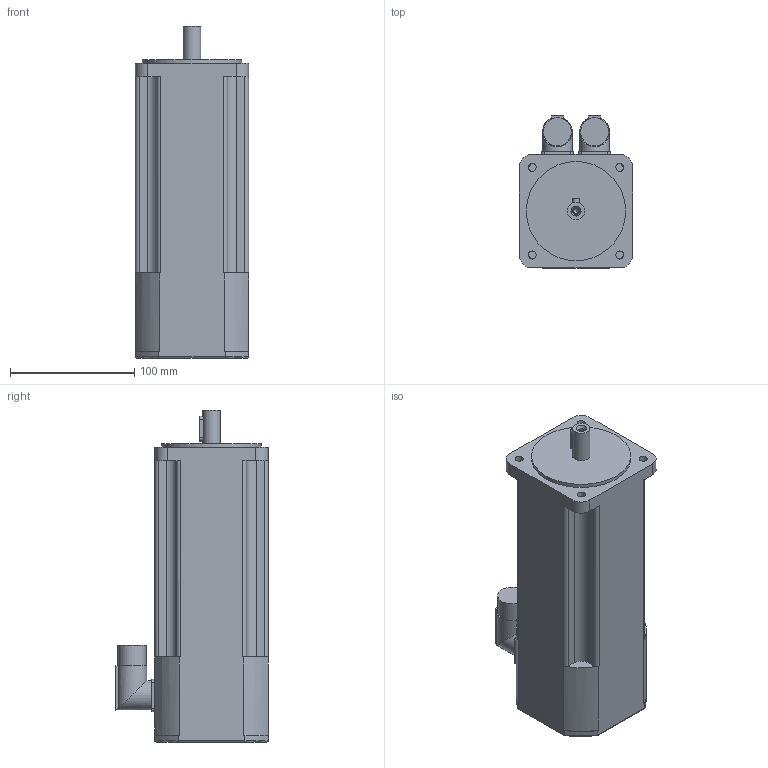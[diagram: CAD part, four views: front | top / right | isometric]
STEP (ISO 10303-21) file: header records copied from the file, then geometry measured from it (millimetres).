
FILE_DESCRIPTION(/* description */ (''),/* implementation_level */ '2;1');
FILE_NAME(/* name */ '\\Lafnas01\disegni\Archivi Lafert\3D\CAD 3D\MODELLI\Assiemi clienti\Serad\Modelli 3D Serad\B56I\Encoder\Enc With Brake\B5601Ixx6BRx2033.ipt.stp',/* time_stamp */ '2015-09-07T10:49:37+02:00',/* author */ ('Pastrello Ylenia'),/* organization */ (''),/* preprocessor_version */ 'ST-DEVELOPER v15.6',/* originating_system */ 'Autodesk Inventor 2015',/* authorisation */ '');
FILE_SCHEMA (('AUTOMOTIVE_DESIGN { 1 0 10303 214 3 1 1 }'));
Length unit declared in the file: millimetre
Products named in the file (1): B5601Ixx6BRx2033
Bounding box: 91.3 x 122.8 x 267.5 mm (x, y, z)
Volume: 1820610 mm3; surface area: 109531.5 mm2
Topology: 1 solids, 1 shells, 133 faces, 339 edges, 215 vertices
Faces by surface type: plane 74, cylinder 52, torus 4, cone 3
Full cylindrical faces by diameter (mm): 4.134 x1, 5.3 x1, 6.5 x4, 14 x1, 22.7 x2, 24 x2, 80 x1
Entity records: 4088 total; most frequent: CARTESIAN_POINT 804, DIRECTION 726, ORIENTED_EDGE 640, EDGE_CURVE 320, AXIS2_PLACEMENT_3D 282, VERTEX_POINT 212, EDGE_LOOP 164, LINE 162
